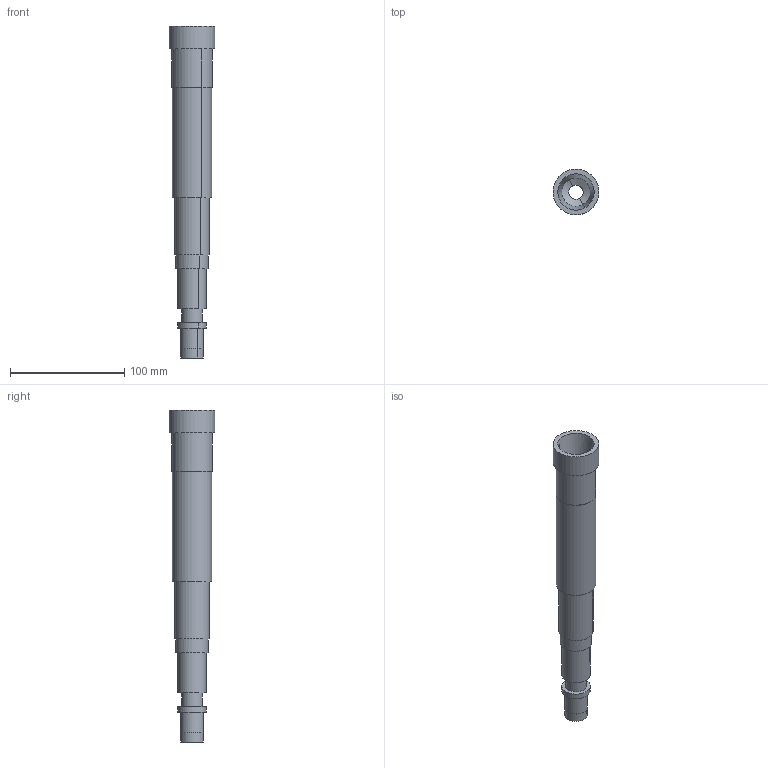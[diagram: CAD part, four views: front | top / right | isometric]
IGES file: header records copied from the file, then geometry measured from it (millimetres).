
Start section: START RECORD GO HERE.
Global section: file name: R8_Long_Spindle.igs; native system: IBM CATIA IGES - CATIA Version 5 Release 18 ; preprocessor: CATIA Version 5 Release 18 ; author: Barry; organization: win764bit; date: 20170723.073140; units: millimetre
Bounding box: 39.99 x 39.99 x 290 mm (x, y, z)
Surface area: 45944.6 mm2 (no closed solid volume)
Topology: 0 solids, 0 shells, 39 faces, 156 edges, 156 vertices
Faces by surface type: revolution 28, plane 11
